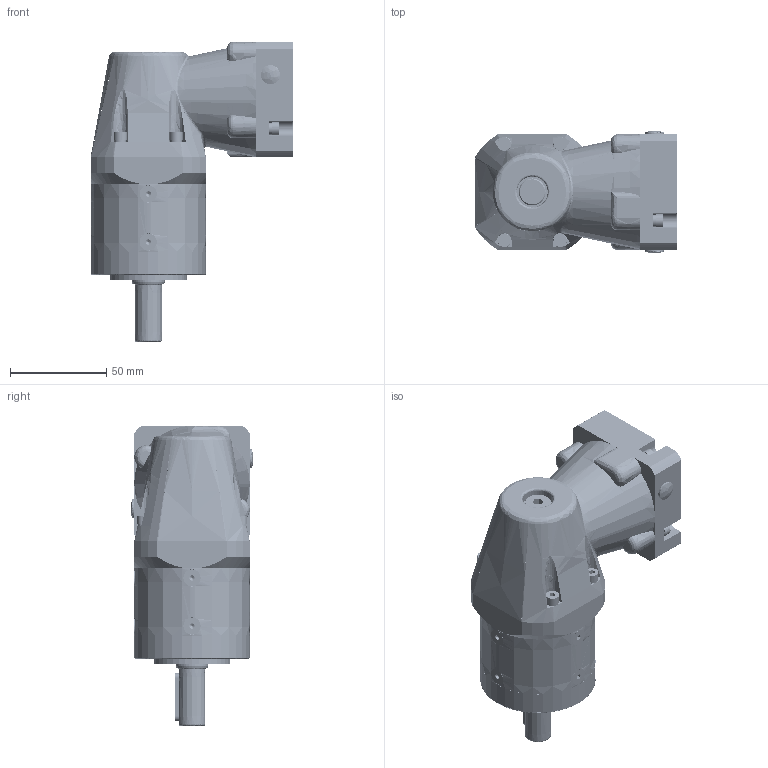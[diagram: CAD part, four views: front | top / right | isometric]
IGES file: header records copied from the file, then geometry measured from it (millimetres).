
Start section: SolidWorks IGES file using analytic representation for surfaces
Global section: file name: C:\TeknicPDM\Remarketed and Private Label Products\Gearboxes\Gearbox Customer Files\GSLR (Newstart WPL Series)\GSLR-060-0_ _-N023_-XX Single Stage.IGS; native system: SolidWorks 2020; preprocessor: SolidWorks 2020; author: zeb_koch; date: 250826.110528; units: millimetre
Bounding box: 105.5 x 63.92 x 156.02 mm (x, y, z)
Surface area: 132001.9 mm2 (no closed solid volume)
Topology: 0 solids, 0 shells, 1672 faces, 30525 edges, 30391 vertices
Faces by surface type: bspline 940, revolution 732
